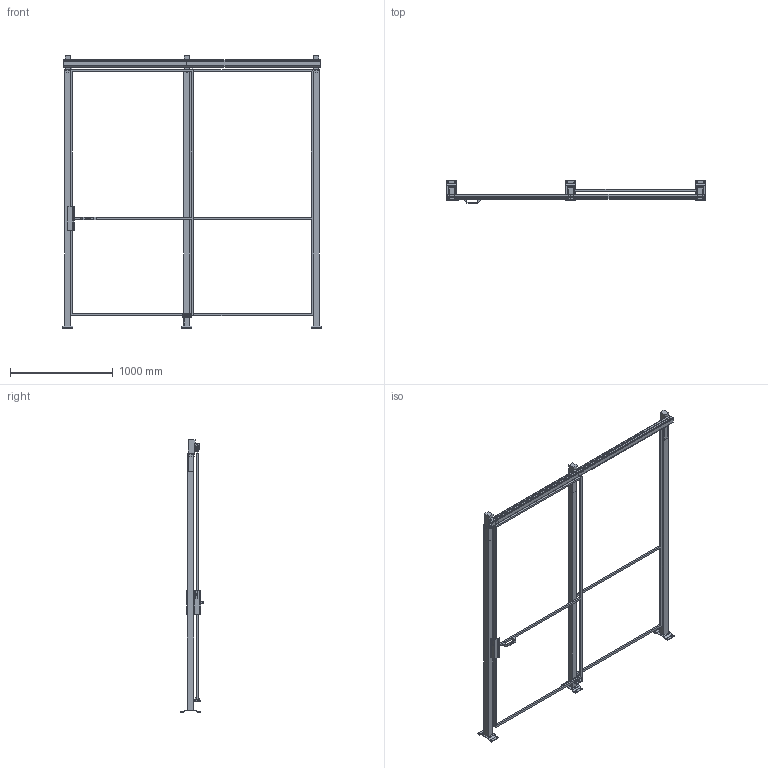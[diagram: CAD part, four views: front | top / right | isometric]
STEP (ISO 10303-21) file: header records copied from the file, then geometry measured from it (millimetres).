
FILE_DESCRIPTION(/* description */ (''),/* implementation_level */ '2;1');
FILE_NAME(/* name */ 'C:\SafeGuarding\ELABORATI\VZOR§POSUVNE_2025-02-05-13-20-45.stp',/* time_stamp */ '2025-02-05T13:20:48+01:00',/* author */ ('admin'),/* organization */ (''),/* preprocessor_version */ 'ST-DEVELOPER v18.1',/* originating_system */ 'AutoCAD Mechanical',/* authorisation */ '');
FILE_SCHEMA (('AUTOMOTIVE_DESIGN { 1 0 10303 214 3 1 1 }'));
Length unit declared in the file: millimetre
Products named in the file (4): Product; VFPA.REPE2012002400; DATI_PORTA; P_VFMA.ME60SDU.2520
Assembly tree (6 placements, depth 2):
  Product
    P_VFMA.ME60SDU.2520  x3
    VFPA.REPE2012002400  x2
    DATI_PORTA
Bounding box: 2520 x 219.95 x 2654 mm (x, y, z)
Volume: 40210416.3 mm3; surface area: 4819268.4 mm2
Topology: 27 solids, 38 shells, 450 faces, 1588 edges, 1582 vertices
Faces by surface type: plane 410, cylinder 38, sphere 2
Full cylindrical faces by diameter (mm): 11 x12, 12 x2, 15 x4, 40 x4
Entity records: 12350 total; most frequent: CARTESIAN_POINT 2734, DIRECTION 1872, ORIENTED_EDGE 1710, EDGE_CURVE 904, LINE 876, VECTOR 876, VERTEX_POINT 644, AXIS2_PLACEMENT_3D 498
